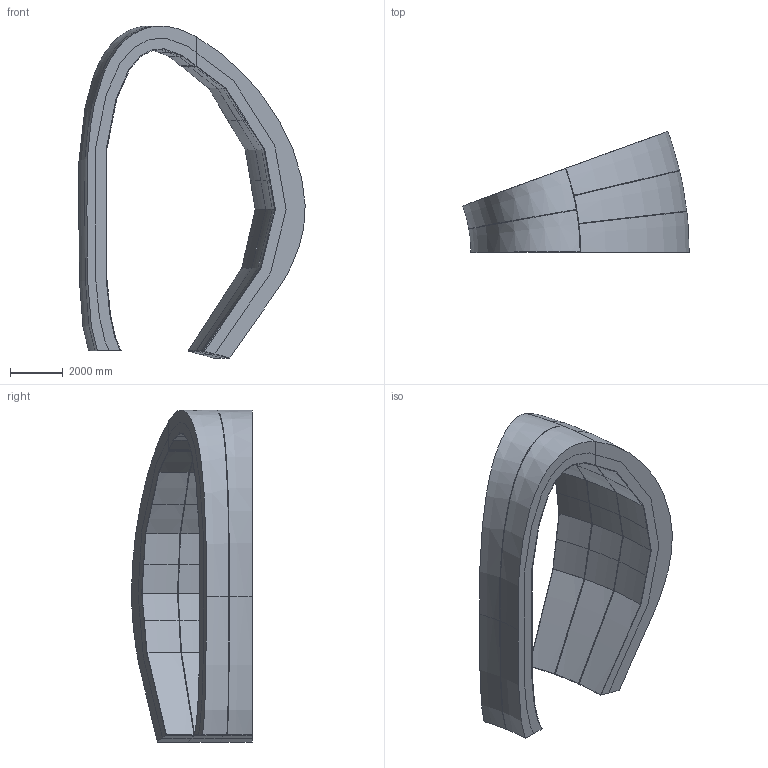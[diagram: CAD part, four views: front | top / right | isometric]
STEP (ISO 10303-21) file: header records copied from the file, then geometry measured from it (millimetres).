
FILE_DESCRIPTION(('FreeCAD Model'),'2;1');
FILE_NAME('Open CASCADE Shape Model','2026-10-11T08:18:56',('Bluemira'), ('Bluemira'),'Open CASCADE STEP processor 7.8','FreeCAD','Unknown');
FILE_SCHEMA(('AP242_MANAGED_MODEL_BASED_3D_ENGINEERING_MIM_LF. {1 0 10303 442 1 1 4 }'));
Length unit declared in the file: metre
Products named in the file (16): Unnamed; IBS_FW_0_1_1; IBS_FW_1_1_1; IBS_BZ_0_1_1; IBS_BZ_1_1_1; IBS_MANIFOLD_0_1_1; IBS_MANIFOLD_1_1_1; OBS_FW_0_1_1; OBS_FW_1_1_1; OBS_FW_2_1_1; OBS_BZ_0_1_1; OBS_BZ_1_1_1; OBS_BZ_2_1_1; OBS_MANIFOLD_0_1_1; OBS_MANIFOLD_1_1_1; OBS_MANIFOLD_2_1_1
Assembly tree (15 placements, depth 2):
  Unnamed
    IBS_FW_0_1_1
    IBS_FW_1_1_1
    IBS_BZ_0_1_1
    IBS_BZ_1_1_1
    IBS_MANIFOLD_0_1_1
    IBS_MANIFOLD_1_1_1
    OBS_FW_0_1_1
    OBS_FW_1_1_1
    OBS_FW_2_1_1
    OBS_BZ_0_1_1
    OBS_BZ_1_1_1
    OBS_BZ_2_1_1
    OBS_MANIFOLD_0_1_1
    OBS_MANIFOLD_1_1_1
    OBS_MANIFOLD_2_1_1
Bounding box: 8621.09 x 4602.69 x 12643.88 mm (x, y, z)
Volume: 85780329636.2 mm3; surface area: 649313538.3 mm2
Topology: 15 solids, 15 shells, 342 faces, 936 edges, 624 vertices
Faces by surface type: cone 238, cylinder 43, plane 36, revolution 25
Entity records: 34672 total; most frequent: CARTESIAN_POINT 17726, DIRECTION 2989, ORIENTED_EDGE 1872, PCURVE 1872, DEFINITIONAL_REPRESENTATION 1872, AXIS2_PLACEMENT_3D 1121, EDGE_CURVE 936, SURFACE_CURVE 936
